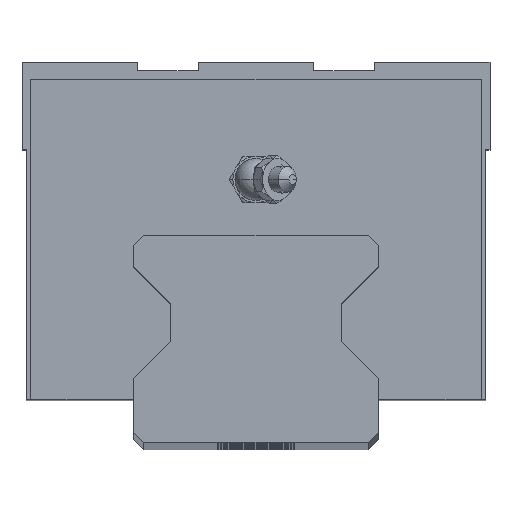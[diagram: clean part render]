
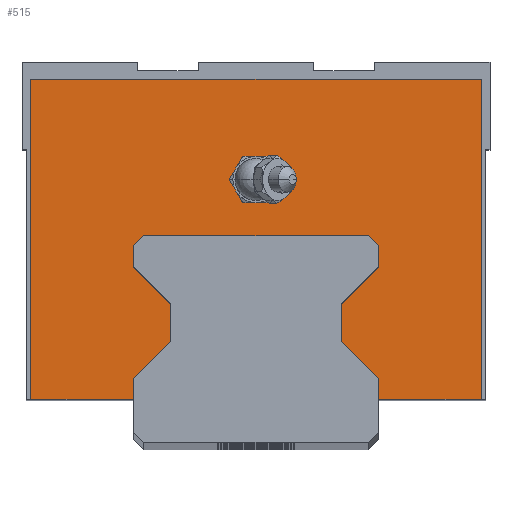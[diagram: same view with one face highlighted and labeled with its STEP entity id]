
A CAD part, top view. The second image highlights one B-rep face of the part: STEP entity #515.
In plain terms, the highlighted planar face has unit normal (0, 0, 1).
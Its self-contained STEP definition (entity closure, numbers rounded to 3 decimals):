
#515=ADVANCED_FACE('',(#1234,#1235),#1236,.T.);
#1234=FACE_BOUND('',#2167,.T.);
#1235=FACE_OUTER_BOUND('',#2168,.T.);
#1236=PLANE('',#2169);
#2167=EDGE_LOOP('',(#3637,#3638));
#2168=EDGE_LOOP('',(#3639,#3640,#3641,#3642,#3643,#3644,#3645,#3646,#3647,#3648,#3649,#3650,#3651,#3652,#3653,#3654,#3655,#3656));
#2169=AXIS2_PLACEMENT_3D('',#3657,#3658,#3659);
#3637=ORIENTED_EDGE('',*,*,#5793,.T.);
#3638=ORIENTED_EDGE('',*,*,#5662,.T.);
#3639=ORIENTED_EDGE('',*,*,#5794,.F.);
#3640=ORIENTED_EDGE('',*,*,#5788,.F.);
#3641=ORIENTED_EDGE('',*,*,#5795,.F.);
#3642=ORIENTED_EDGE('',*,*,#5796,.F.);
#3643=ORIENTED_EDGE('',*,*,#5448,.F.);
#3644=ORIENTED_EDGE('',*,*,#5797,.F.);
#3645=ORIENTED_EDGE('',*,*,#5636,.F.);
#3646=ORIENTED_EDGE('',*,*,#5798,.F.);
#3647=ORIENTED_EDGE('',*,*,#5799,.F.);
#3648=ORIENTED_EDGE('',*,*,#5800,.F.);
#3649=ORIENTED_EDGE('',*,*,#5801,.F.);
#3650=ORIENTED_EDGE('',*,*,#5802,.F.);
#3651=ORIENTED_EDGE('',*,*,#5599,.F.);
#3652=ORIENTED_EDGE('',*,*,#5803,.F.);
#3653=ORIENTED_EDGE('',*,*,#5804,.F.);
#3654=ORIENTED_EDGE('',*,*,#5805,.F.);
#3655=ORIENTED_EDGE('',*,*,#5806,.F.);
#3656=ORIENTED_EDGE('',*,*,#5543,.F.);
#3657=CARTESIAN_POINT('',(0.,38.278,-50.9));
#3658=DIRECTION('',(0.,0.,1.0));
#3659=DIRECTION('',(1.0,0.0,0.));
#5448=EDGE_CURVE('',#6543,#6545,#6546,.T.);
#5543=EDGE_CURVE('',#6704,#6707,#6708,.T.);
#5599=EDGE_CURVE('',#6798,#6801,#6802,.T.);
#5636=EDGE_CURVE('',#6860,#6863,#6864,.T.);
#5662=EDGE_CURVE('',#6904,#6902,#6905,.T.);
#5788=EDGE_CURVE('',#7098,#7101,#7102,.T.);
#5793=EDGE_CURVE('',#6902,#6904,#7108,.T.);
#5794=EDGE_CURVE('',#7101,#6704,#7109,.T.);
#5795=EDGE_CURVE('',#7110,#7098,#7111,.T.);
#5796=EDGE_CURVE('',#6545,#7110,#7112,.T.);
#5797=EDGE_CURVE('',#6863,#6543,#7113,.T.);
#5798=EDGE_CURVE('',#7114,#6860,#7115,.T.);
#5799=EDGE_CURVE('',#7116,#7114,#7117,.T.);
#5800=EDGE_CURVE('',#7118,#7116,#7119,.T.);
#5801=EDGE_CURVE('',#7120,#7118,#7121,.T.);
#5802=EDGE_CURVE('',#6801,#7120,#7122,.T.);
#5803=EDGE_CURVE('',#7123,#6798,#7124,.T.);
#5804=EDGE_CURVE('',#7125,#7123,#7126,.T.);
#5805=EDGE_CURVE('',#7127,#7125,#7128,.T.);
#5806=EDGE_CURVE('',#6707,#7127,#7129,.T.);
#6543=VERTEX_POINT('',#8128);
#6545=VERTEX_POINT('',#8131);
#6546=LINE('',#8132,#8133);
#6704=VERTEX_POINT('',#8383);
#6707=VERTEX_POINT('',#8387);
#6708=LINE('',#8388,#8389);
#6798=VERTEX_POINT('',#8506);
#6801=VERTEX_POINT('',#8510);
#6802=LINE('',#8511,#8512);
#6860=VERTEX_POINT('',#8610);
#6863=VERTEX_POINT('',#8614);
#6864=LINE('',#8615,#8616);
#6902=VERTEX_POINT('',#8668);
#6904=VERTEX_POINT('',#8671);
#6905=CIRCLE('',#8672,3.87);
#7098=VERTEX_POINT('',#8951);
#7101=VERTEX_POINT('',#8955);
#7102=LINE('',#8956,#8957);
#7108=CIRCLE('',#8965,3.87);
#7109=LINE('',#8966,#8967);
#7110=VERTEX_POINT('',#8968);
#7111=LINE('',#8969,#8970);
#7112=LINE('',#8971,#8972);
#7113=LINE('',#8973,#8974);
#7114=VERTEX_POINT('',#8975);
#7115=LINE('',#8976,#8977);
#7116=VERTEX_POINT('',#8978);
#7117=LINE('',#8979,#8980);
#7118=VERTEX_POINT('',#8981);
#7119=LINE('',#8982,#8983);
#7120=VERTEX_POINT('',#8984);
#7121=LINE('',#8985,#8986);
#7122=LINE('',#8987,#8988);
#7123=VERTEX_POINT('',#8989);
#7124=LINE('',#8990,#8991);
#7125=VERTEX_POINT('',#8992);
#7126=LINE('',#8993,#8994);
#7127=VERTEX_POINT('',#8995);
#7128=LINE('',#8996,#8997);
#7129=LINE('',#8998,#8999);
#8128=CARTESIAN_POINT('',(-41.4,66.8,-50.9));
#8131=CARTESIAN_POINT('',(41.4,66.8,-50.9));
#8132=CARTESIAN_POINT('',(-41.4,66.8,-50.9));
#8133=VECTOR('',#10246,1000.0);
#8383=CARTESIAN_POINT('',(15.667,18.633,-50.9));
#8387=CARTESIAN_POINT('',(15.667,25.467,-50.9));
#8388=CARTESIAN_POINT('',(15.667,18.633,-50.9));
#8389=VECTOR('',#10390,1000.0);
#8506=CARTESIAN_POINT('',(-20.6,38.0,-50.9));
#8510=CARTESIAN_POINT('',(-22.5,36.1,-50.9));
#8511=CARTESIAN_POINT('',(-20.6,38.0,-50.9));
#8512=VECTOR('',#10464,1000.0);
#8610=CARTESIAN_POINT('',(-22.5,8.0,-50.9));
#8614=CARTESIAN_POINT('',(-41.4,8.0,-50.9));
#8615=CARTESIAN_POINT('',(-41.4,8.0,-50.9));
#8616=VECTOR('',#10498,1000.0);
#8668=CARTESIAN_POINT('',(3.87,48.4,-50.9));
#8671=CARTESIAN_POINT('',(-3.87,48.4,-50.9));
#8672=AXIS2_PLACEMENT_3D('',#10526,#10527,#10528);
#8951=CARTESIAN_POINT('',(22.5,8.0,-50.9));
#8955=CARTESIAN_POINT('',(22.5,11.8,-50.9));
#8956=CARTESIAN_POINT('',(22.5,8.0,-50.9));
#8957=VECTOR('',#10743,1000.0);
#8965=AXIS2_PLACEMENT_3D('',#10746,#10747,#10748);
#8966=CARTESIAN_POINT('',(22.5,11.8,-50.9));
#8967=VECTOR('',#10749,1000.0);
#8968=CARTESIAN_POINT('',(41.4,8.0,-50.9));
#8969=CARTESIAN_POINT('',(41.4,8.0,-50.9));
#8970=VECTOR('',#10750,1000.0);
#8971=CARTESIAN_POINT('',(41.4,66.8,-50.9));
#8972=VECTOR('',#10751,1000.0);
#8973=CARTESIAN_POINT('',(-41.4,8.0,-50.9));
#8974=VECTOR('',#10752,1000.0);
#8975=CARTESIAN_POINT('',(-22.5,11.8,-50.9));
#8976=CARTESIAN_POINT('',(-22.5,11.8,-50.9));
#8977=VECTOR('',#10753,1000.0);
#8978=CARTESIAN_POINT('',(-15.667,18.633,-50.9));
#8979=CARTESIAN_POINT('',(-15.667,18.633,-50.9));
#8980=VECTOR('',#10754,1000.0);
#8981=CARTESIAN_POINT('',(-15.667,25.467,-50.9));
#8982=CARTESIAN_POINT('',(-15.667,25.467,-50.9));
#8983=VECTOR('',#10755,1000.0);
#8984=CARTESIAN_POINT('',(-22.5,32.3,-50.9));
#8985=CARTESIAN_POINT('',(-22.5,32.3,-50.9));
#8986=VECTOR('',#10756,1000.0);
#8987=CARTESIAN_POINT('',(-22.5,36.1,-50.9));
#8988=VECTOR('',#10757,1000.0);
#8989=CARTESIAN_POINT('',(20.6,38.0,-50.9));
#8990=CARTESIAN_POINT('',(20.6,38.0,-50.9));
#8991=VECTOR('',#10758,1000.0);
#8992=CARTESIAN_POINT('',(22.5,36.1,-50.9));
#8993=CARTESIAN_POINT('',(22.5,36.1,-50.9));
#8994=VECTOR('',#10759,1000.0);
#8995=CARTESIAN_POINT('',(22.5,32.3,-50.9));
#8996=CARTESIAN_POINT('',(22.5,32.3,-50.9));
#8997=VECTOR('',#10760,1000.0);
#8998=CARTESIAN_POINT('',(15.667,25.467,-50.9));
#8999=VECTOR('',#10761,1000.0);
#10246=DIRECTION('',(1.0,0.0,0.0));
#10390=DIRECTION('',(0.0,1.0,0.0));
#10464=DIRECTION('',(-0.707,-0.707,0.0));
#10498=DIRECTION('',(-1.0,-0.0,-0.0));
#10526=CARTESIAN_POINT('',(0.0,48.4,-50.9));
#10527=DIRECTION('',(0.,0.,-1.0));
#10528=DIRECTION('',(1.0,0.,0.));
#10743=DIRECTION('',(0.0,1.0,0.0));
#10746=CARTESIAN_POINT('',(0.0,48.4,-50.9));
#10747=DIRECTION('',(0.,0.,-1.0));
#10748=DIRECTION('',(1.0,0.,0.));
#10749=DIRECTION('',(-0.707,0.707,0.0));
#10750=DIRECTION('',(-1.0,0.0,0.0));
#10751=DIRECTION('',(0.0,-1.0,0.0));
#10752=DIRECTION('',(0.0,1.0,0.0));
#10753=DIRECTION('',(0.0,-1.0,0.0));
#10754=DIRECTION('',(-0.707,-0.707,0.0));
#10755=DIRECTION('',(0.0,-1.0,0.0));
#10756=DIRECTION('',(0.707,-0.707,0.0));
#10757=DIRECTION('',(0.0,-1.0,0.0));
#10758=DIRECTION('',(-1.0,0.0,0.0));
#10759=DIRECTION('',(-0.707,0.707,0.0));
#10760=DIRECTION('',(0.0,1.0,0.0));
#10761=DIRECTION('',(0.707,0.707,0.0));
